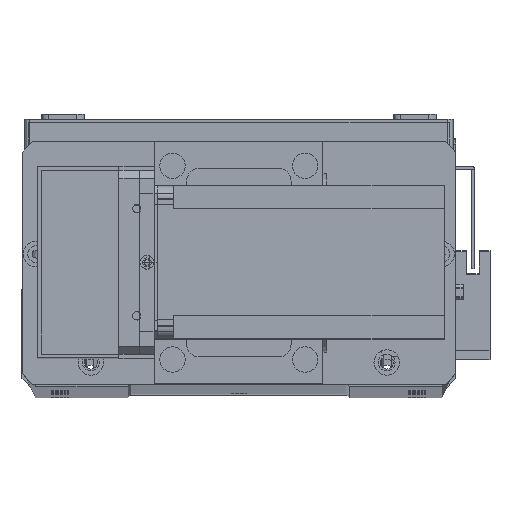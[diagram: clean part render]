
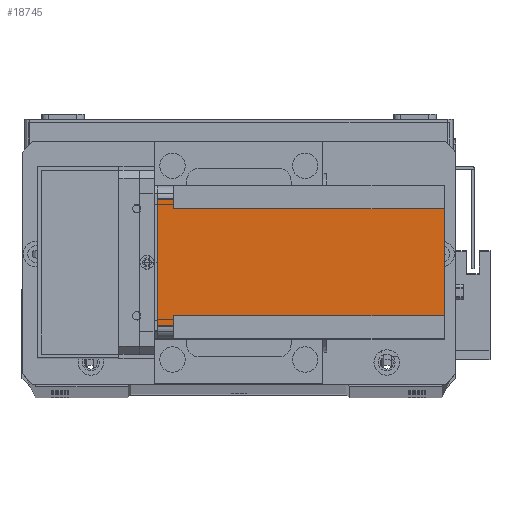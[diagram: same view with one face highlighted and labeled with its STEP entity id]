
A CAD part, top view. The second image highlights one B-rep face of the part: STEP entity #18745.
In plain terms, the highlighted planar face has unit normal (0, 0, 1) as drawn and (-1, 0, 0) by its records, which use the part's own axes.
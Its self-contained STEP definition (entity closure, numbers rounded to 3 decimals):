
#450 = DIRECTION ( 'NONE',  ( 0., -1., 0. ) ) ;
#2194 = VERTEX_POINT ( 'NONE', #10703 ) ;
#2235 = VERTEX_POINT ( 'NONE', #5577 ) ;
#2469 = CARTESIAN_POINT ( 'NONE',  ( 0., 60., -6.5 ) ) ;
#2487 = ORIENTED_EDGE ( 'NONE', *, *, #14821, .F. ) ;
#3984 = EDGE_CURVE ( 'NONE', #2194, #30476, #26213, .T. ) ;
#4621 = ORIENTED_EDGE ( 'NONE', *, *, #29858, .T. ) ;
#5577 = CARTESIAN_POINT ( 'NONE',  ( 0., 55., 0. ) ) ;
#5791 = LINE ( 'NONE', #24293, #12734 ) ;
#5817 = FACE_OUTER_BOUND ( 'NONE', #18254, .T. ) ;
#6025 = DIRECTION ( 'NONE',  ( 0., 0., -1. ) ) ;
#7462 = CARTESIAN_POINT ( 'NONE',  ( 0., 51., -112.5 ) ) ;
#8262 = LINE ( 'NONE', #22315, #33610 ) ;
#8512 = VERTEX_POINT ( 'NONE', #29015 ) ;
#8648 = VERTEX_POINT ( 'NONE', #16602 ) ;
#9514 = PLANE ( 'NONE',  #17794 ) ;
#10377 = VECTOR ( 'NONE', #18160, 1000. ) ;
#10703 = CARTESIAN_POINT ( 'NONE',  ( 0., 51., -112.5 ) ) ;
#11381 = ORIENTED_EDGE ( 'NONE', *, *, #31975, .F. ) ;
#11940 = CARTESIAN_POINT ( 'NONE',  ( 0., 0., -6.5 ) ) ;
#12146 = DIRECTION ( 'NONE',  ( -1., 0., 0. ) ) ;
#12233 = ORIENTED_EDGE ( 'NONE', *, *, #32675, .T. ) ;
#12328 = VECTOR ( 'NONE', #25833, 1000. ) ;
#12662 = CARTESIAN_POINT ( 'NONE',  ( 0., 9., -112.5 ) ) ;
#12734 = VECTOR ( 'NONE', #6025, 1000. ) ;
#13830 = VECTOR ( 'NONE', #24953, 1000. ) ;
#14663 = VECTOR ( 'NONE', #33143, 1000. ) ;
#14821 = EDGE_CURVE ( 'NONE', #30466, #26492, #17609, .T. ) ;
#15867 = ORIENTED_EDGE ( 'NONE', *, *, #18697, .F. ) ;
#16305 = LINE ( 'NONE', #11940, #13830 ) ;
#16584 = EDGE_CURVE ( 'NONE', #30476, #8512, #23467, .T. ) ;
#16602 = CARTESIAN_POINT ( 'NONE',  ( 0., 5., 0. ) ) ;
#17222 = CARTESIAN_POINT ( 'NONE',  ( 0., 0., -112.5 ) ) ;
#17609 = LINE ( 'NONE', #12662, #28990 ) ;
#17794 = AXIS2_PLACEMENT_3D ( 'NONE', #17222, #12146, #30410 ) ;
#17841 = DIRECTION ( 'NONE',  ( 0., 0., -1. ) ) ;
#18160 = DIRECTION ( 'NONE',  ( 0., 1., 0. ) ) ;
#18254 = EDGE_LOOP ( 'NONE', ( #11381, #12233, #15867, #4621, #18990, #33406, #20093, #2487 ) ) ;
#18697 = EDGE_CURVE ( 'NONE', #2235, #8648, #8262, .T. ) ;
#18745 = ADVANCED_FACE ( 'NONE', ( #5817 ), #9514, .T. ) ;
#18990 = ORIENTED_EDGE ( 'NONE', *, *, #16584, .F. ) ;
#20093 = ORIENTED_EDGE ( 'NONE', *, *, #28077, .T. ) ;
#20268 = CARTESIAN_POINT ( 'NONE',  ( 0., 9., -112.5 ) ) ;
#22315 = CARTESIAN_POINT ( 'NONE',  ( 0., 0., 0. ) ) ;
#22410 = LINE ( 'NONE', #22634, #14663 ) ;
#22634 = CARTESIAN_POINT ( 'NONE',  ( 0., 5., -112.5 ) ) ;
#23467 = LINE ( 'NONE', #2469, #10377 ) ;
#23734 = CARTESIAN_POINT ( 'NONE',  ( 0., 0., -112.5 ) ) ;
#24293 = CARTESIAN_POINT ( 'NONE',  ( 0., 55., -112.5 ) ) ;
#24937 = DIRECTION ( 'NONE',  ( 0., -1., 0. ) ) ;
#24953 = DIRECTION ( 'NONE',  ( 0., 1., 0. ) ) ;
#25833 = DIRECTION ( 'NONE',  ( 0., 0., 1. ) ) ;
#26213 = LINE ( 'NONE', #7462, #12328 ) ;
#26492 = VERTEX_POINT ( 'NONE', #20268 ) ;
#26533 = CARTESIAN_POINT ( 'NONE',  ( 0., 51., -6.5 ) ) ;
#27418 = LINE ( 'NONE', #23734, #32751 ) ;
#27947 = VERTEX_POINT ( 'NONE', #28390 ) ;
#28077 = EDGE_CURVE ( 'NONE', #2194, #26492, #27418, .T. ) ;
#28390 = CARTESIAN_POINT ( 'NONE',  ( 0., 5., -6.5 ) ) ;
#28990 = VECTOR ( 'NONE', #17841, 1000. ) ;
#29015 = CARTESIAN_POINT ( 'NONE',  ( 0., 55., -6.5 ) ) ;
#29858 = EDGE_CURVE ( 'NONE', #2235, #8512, #5791, .T. ) ;
#30410 = DIRECTION ( 'NONE',  ( 0., -1., 0. ) ) ;
#30466 = VERTEX_POINT ( 'NONE', #31785 ) ;
#30476 = VERTEX_POINT ( 'NONE', #26533 ) ;
#31785 = CARTESIAN_POINT ( 'NONE',  ( 0., 9., -6.5 ) ) ;
#31975 = EDGE_CURVE ( 'NONE', #27947, #30466, #16305, .T. ) ;
#32675 = EDGE_CURVE ( 'NONE', #27947, #8648, #22410, .T. ) ;
#32751 = VECTOR ( 'NONE', #450, 1000. ) ;
#33143 = DIRECTION ( 'NONE',  ( 0., 0., 1. ) ) ;
#33406 = ORIENTED_EDGE ( 'NONE', *, *, #3984, .F. ) ;
#33610 = VECTOR ( 'NONE', #24937, 1000. ) ;
